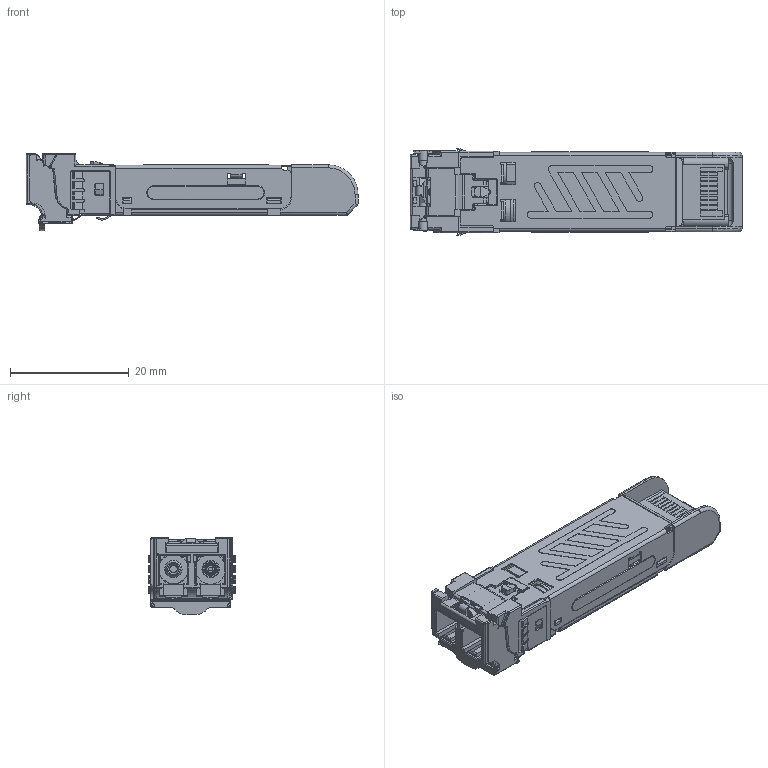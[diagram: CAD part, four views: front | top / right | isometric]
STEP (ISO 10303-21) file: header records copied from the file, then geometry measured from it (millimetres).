
FILE_DESCRIPTION((''),'2;1');
FILE_NAME('DRW0001_ASM','2017-05-24T',('Vincent_Huang'),('PTC'),'PRO/ENGINEER BY PARAMETRIC TECHNOLOGY CORPORATION, 2013230','PRO/ENGINEER BY PARAMETRIC TECHNOLOGY CORPORATION, 2013230','');
FILE_SCHEMA(('AUTOMOTIVE_DESIGN { 1 0 10303 214 1 1 1 1 }'));
Products named in the file (10): PRT0003; PRT0004; PRT0005; ASM0001_ASM; PRT0006; PRT0007; PRT0008; PRT0009; ASM0002_ASM; DRW0001_ASM
Assembly tree (9 placements, depth 3):
  DRW0001_ASM
    PRT0003
    ASM0001_ASM
      PRT0004
      PRT0005
    ASM0002_ASM
      PRT0006
      PRT0007
      PRT0008
      PRT0009
Bounding box: 55.9 x 14.7 x 12.98 mm (x, y, z)
Volume: 207.5 mm3; surface area: 7411.1 mm2
Topology: 4 solids, 11 shells, 2025 faces, 5897 edges, 3839 vertices
Faces by surface type: plane 1177, cylinder 687, torus 123, cone 19, sphere 17, extrusion 2
Entity records: 68288 total; most frequent: CARTESIAN_POINT 13424, ORIENTED_EDGE 11428, DIRECTION 11421, EDGE_CURVE 5887, VECTOR 3883, LINE 3881, VERTEX_POINT 3839, AXIS2_PLACEMENT_3D 3769
